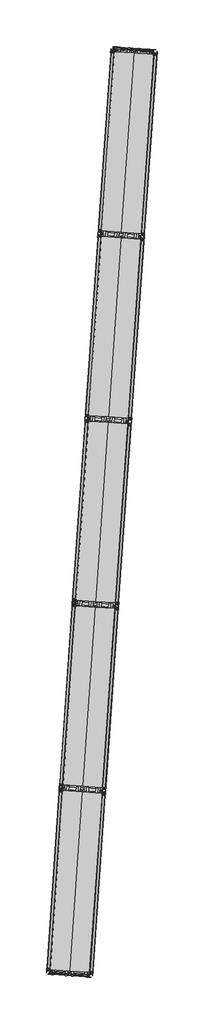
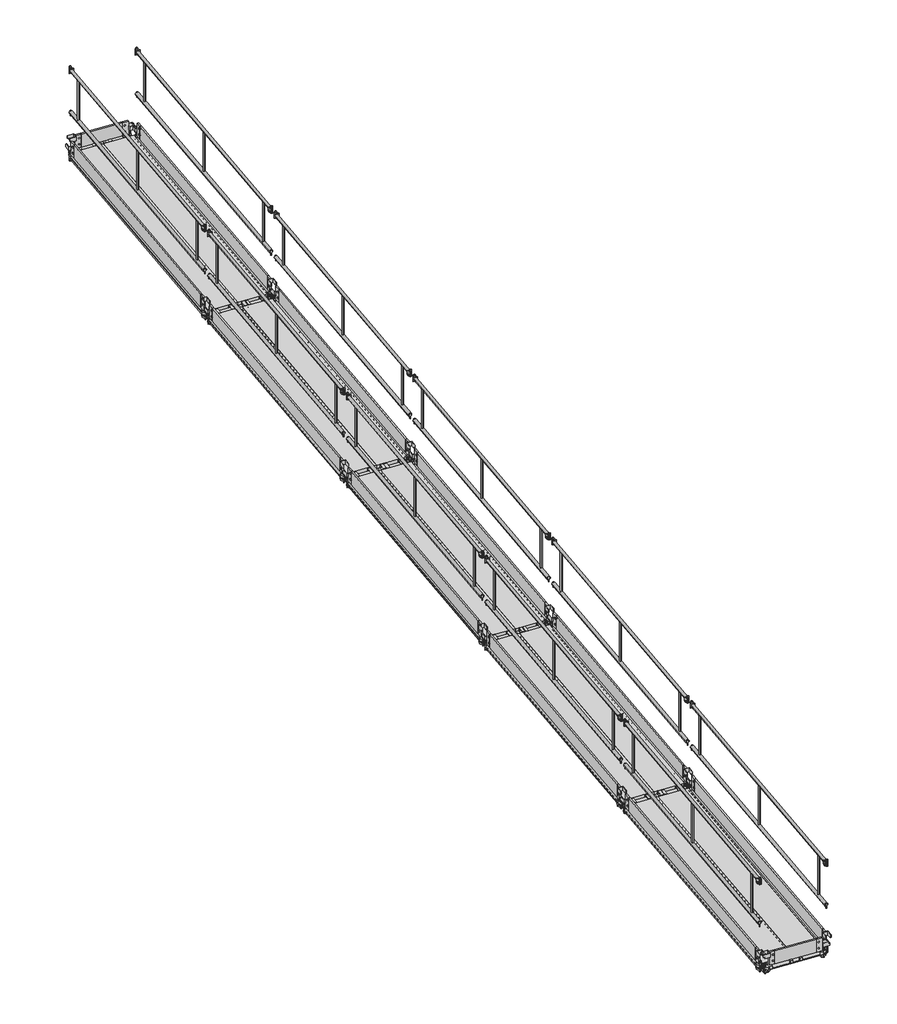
# One storey, incomplete: 54 proxies.
"""IFC4 building model written with IfcOpenShell, lengths in millimetres."""

from ifc_helpers import new_model, si_unit, origin, place, context, project, spatial, transform, mapped, element, save
from components import generic_models_b6224320, generic_models_6026e95e, generic_models_c9bf4d4e, generic_models_8fe25d63, proxy_03_lisse_70_0da8a22d, proxy_04_lisse_3_m_913477d2

model = new_model("IFC4")

# Units and contexts
model_context = context("Model", 3, world=origin())
ifc_project = project(units=[si_unit("LENGTHUNIT", "METRE", prefix="MILLI")], contexts=[model_context])

# Site, building, storey
site = spatial("IfcSite", under=ifc_project)
building = spatial("IfcBuilding", under=site)
storey = spatial("IfcBuildingStorey", under=building, Name="01-Plateau 1", Elevation=400.0)

# Proxies
placement = place(None, origin())
generic_models_shape = generic_models_b6224320(model_context)
element("IfcBuildingElementProxy", 1, Name="05-Plateau 3.00 m : JPA Plateau Galva", ObjectType="05-Plateau 3.00 m : JPA Plateau Galva", at=placement, inside=storey, context=model_context, shape_type="MappedRepresentation", body=[
    mapped(generic_models_shape, transform((17696.6144519, 11330.0091436, 400.0), x_axis=(0.06975647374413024, 0.997564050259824, 0.0), y_axis=(-0.997564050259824, 0.06975647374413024, 0.0), z_axis=(0.0, 0.0, 1.0))),
])
element("IfcBuildingElementProxy", 2, Name="05-Plateau 3.00 m : JPA Plateau Galva", ObjectType="05-Plateau 3.00 m : JPA Plateau Galva", at=placement, inside=storey, context=model_context, shape_type="MappedRepresentation", body=[
    mapped(generic_models_shape, transform((18015.8349479, 11307.687072, 400.0), x_axis=(0.06975647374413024, 0.997564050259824, 0.0), y_axis=(-0.997564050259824, 0.06975647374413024, 0.0), z_axis=(0.0, 0.0, 1.0))),
])
element("IfcBuildingElementProxy", 3, Name="05-Plateau 3.00 m : JPA Plateau Galva", ObjectType="05-Plateau 3.00 m : JPA Plateau Galva", at=placement, inside=storey, context=model_context, shape_type="MappedRepresentation", body=[
    mapped(generic_models_shape, transform((17906.1182541, 14326.0530997, 400.0), x_axis=(0.06975647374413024, 0.997564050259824, 0.0), y_axis=(-0.997564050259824, 0.06975647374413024, 0.0), z_axis=(0.0, 0.0, 1.0))),
])
element("IfcBuildingElementProxy", 4, Name="05-Plateau 3.00 m : JPA Plateau Galva", ObjectType="05-Plateau 3.00 m : JPA Plateau Galva", at=placement, inside=storey, context=model_context, shape_type="MappedRepresentation", body=[
    mapped(generic_models_shape, transform((18225.3387502, 14303.7310281, 400.0), x_axis=(0.06975647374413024, 0.997564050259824, 0.0), y_axis=(-0.997564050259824, 0.06975647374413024, 0.0), z_axis=(0.0, 0.0, 1.0))),
])
element("IfcBuildingElementProxy", 5, Name="05-Plateau 3.00 m : JPA Plateau Galva", ObjectType="05-Plateau 3.00 m : JPA Plateau Galva", at=placement, inside=storey, context=model_context, shape_type="MappedRepresentation", body=[
    mapped(generic_models_shape, transform((18115.6220564, 17322.0970558, 400.0), x_axis=(0.06975647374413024, 0.997564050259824, 0.0), y_axis=(-0.997564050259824, 0.06975647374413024, 0.0), z_axis=(0.0, 0.0, 1.0))),
])
element("IfcBuildingElementProxy", 6, Name="05-Plateau 3.00 m : JPA Plateau Galva", ObjectType="05-Plateau 3.00 m : JPA Plateau Galva", at=placement, inside=storey, context=model_context, shape_type="MappedRepresentation", body=[
    mapped(generic_models_shape, transform((18434.8425525, 17299.7749842, 400.0), x_axis=(0.06975647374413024, 0.997564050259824, 0.0), y_axis=(-0.997564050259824, 0.06975647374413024, 0.0), z_axis=(0.0, 0.0, 1.0))),
])
element("IfcBuildingElementProxy", 7, Name="05-Plateau 3.00 m : JPA Plateau Galva", ObjectType="05-Plateau 3.00 m : JPA Plateau Galva", at=placement, inside=storey, context=model_context, shape_type="MappedRepresentation", body=[
    mapped(generic_models_shape, transform((17487.1106496, 8333.9651875, 400.0), x_axis=(0.06975647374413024, 0.997564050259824, 0.0), y_axis=(-0.997564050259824, 0.06975647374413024, 0.0), z_axis=(0.0, 0.0, 1.0))),
])
element("IfcBuildingElementProxy", 8, Name="05-Plateau 3.00 m : JPA Plateau Galva", ObjectType="05-Plateau 3.00 m : JPA Plateau Galva", at=placement, inside=storey, context=model_context, shape_type="MappedRepresentation", body=[
    mapped(generic_models_shape, transform((17806.3311456, 8311.6431159, 400.0), x_axis=(0.06975647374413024, 0.997564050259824, 0.0), y_axis=(-0.997564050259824, 0.06975647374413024, 0.0), z_axis=(0.0, 0.0, 1.0))),
])
element("IfcBuildingElementProxy", 9, Name="05-Plateau 3.00 m : JPA Plateau Galva", ObjectType="05-Plateau 3.00 m : JPA Plateau Galva", at=placement, inside=storey, context=model_context, shape_type="MappedRepresentation", body=[
    mapped(generic_models_shape, transform((17277.6068473, 5337.9212313, 400.0), x_axis=(0.06975647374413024, 0.997564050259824, 0.0), y_axis=(-0.997564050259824, 0.06975647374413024, 0.0), z_axis=(0.0, 0.0, 1.0))),
])
element("IfcBuildingElementProxy", 10, Name="05-Plateau 3.00 m : JPA Plateau Galva", ObjectType="05-Plateau 3.00 m : JPA Plateau Galva", at=placement, inside=storey, context=model_context, shape_type="MappedRepresentation", body=[
    mapped(generic_models_shape, transform((17596.8273433, 5315.5991597, 400.0), x_axis=(0.06975647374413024, 0.997564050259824, 0.0), y_axis=(-0.997564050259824, 0.06975647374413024, 0.0), z_axis=(0.0, 0.0, 1.0))),
])
generic_models_2_shape = generic_models_6026e95e(model_context)
element("IfcBuildingElementProxy", 11, Name="11-Plinthe 0.70 : JPA Plinthe 0.70", ObjectType="11-Plinthe 0.70 : JPA Plinthe 0.70", at=placement, inside=storey, context=model_context, shape_type="MappedRepresentation", body=[
    mapped(generic_models_2_shape, transform((17293.9283677, 5332.6495195, 400.0), x_axis=(0.9970739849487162, -0.07644258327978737, 0.0), y_axis=(0.07644258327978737, 0.9970739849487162, 0.0), z_axis=(0.0, 0.0, 1.0))),
])
element("IfcBuildingElementProxy", 12, Name="11-Plinthe 0.70 : JPA Plinthe 0.70", ObjectType="11-Plinthe 0.70 : JPA Plinthe 0.70", at=placement, inside=storey, context=model_context, shape_type="MappedRepresentation", body=[
    mapped(generic_models_2_shape, transform((18342.1895888, 20323.4833915, 400.0), x_axis=(0.9970739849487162, -0.07644258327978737, 0.0), y_axis=(0.07644258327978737, 0.9970739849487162, 0.0), z_axis=(0.0, 0.0, 1.0))),
])
generic_models_3_shape = generic_models_c9bf4d4e(model_context)
element("IfcBuildingElementProxy", 13, Name="12-Plinthe 3 m : JPA Plinthe 3 m", ObjectType="12-Plinthe 3 m : JPA Plinthe 3 m", at=placement, inside=storey, context=model_context, shape_type="MappedRepresentation", body=[
    mapped(generic_models_3_shape, transform((17696.788843, 11332.5030537, 400.0), x_axis=(0.06975647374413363, 0.9975640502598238, 0.0), y_axis=(-0.9975640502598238, 0.06975647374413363, 0.0), z_axis=(0.0, 0.0, 1.0))),
])
element("IfcBuildingElementProxy", 14, Name="12-Plinthe 3 m : JPA Plinthe 3 m", ObjectType="12-Plinthe 3 m : JPA Plinthe 3 m", at=placement, inside=storey, context=model_context, shape_type="MappedRepresentation", body=[
    mapped(generic_models_3_shape, transform((18395.0836782, 11283.6735221, 400.0), x_axis=(0.06975647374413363, 0.9975640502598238, 0.0), y_axis=(-0.9975640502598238, 0.06975647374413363, 0.0), z_axis=(0.0, 0.0, 1.0))),
])
element("IfcBuildingElementProxy", 15, Name="12-Plinthe 3 m : JPA Plinthe 3 m", ObjectType="12-Plinthe 3 m : JPA Plinthe 3 m", at=placement, inside=storey, context=model_context, shape_type="MappedRepresentation", body=[
    mapped(generic_models_3_shape, transform((17906.2926453, 14328.5470098, 400.0), x_axis=(0.06975647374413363, 0.9975640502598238, 0.0), y_axis=(-0.9975640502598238, 0.06975647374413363, 0.0), z_axis=(0.0, 0.0, 1.0))),
])
element("IfcBuildingElementProxy", 16, Name="12-Plinthe 3 m : JPA Plinthe 3 m", ObjectType="12-Plinthe 3 m : JPA Plinthe 3 m", at=placement, inside=storey, context=model_context, shape_type="MappedRepresentation", body=[
    mapped(generic_models_3_shape, transform((18604.5874805, 14279.7174782, 400.0), x_axis=(0.06975647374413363, 0.9975640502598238, 0.0), y_axis=(-0.9975640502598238, 0.06975647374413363, 0.0), z_axis=(0.0, 0.0, 1.0))),
])
element("IfcBuildingElementProxy", 17, Name="12-Plinthe 3 m : JPA Plinthe 3 m", ObjectType="12-Plinthe 3 m : JPA Plinthe 3 m", at=placement, inside=storey, context=model_context, shape_type="MappedRepresentation", body=[
    mapped(generic_models_3_shape, transform((18115.7964476, 17324.590966, 400.0), x_axis=(0.06975647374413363, 0.9975640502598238, 0.0), y_axis=(-0.9975640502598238, 0.06975647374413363, 0.0), z_axis=(0.0, 0.0, 1.0))),
])
element("IfcBuildingElementProxy", 18, Name="12-Plinthe 3 m : JPA Plinthe 3 m", ObjectType="12-Plinthe 3 m : JPA Plinthe 3 m", at=placement, inside=storey, context=model_context, shape_type="MappedRepresentation", body=[
    mapped(generic_models_3_shape, transform((18814.0912828, 17275.7614343, 400.0), x_axis=(0.06975647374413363, 0.9975640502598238, 0.0), y_axis=(-0.9975640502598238, 0.06975647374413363, 0.0), z_axis=(0.0, 0.0, 1.0))),
])
element("IfcBuildingElementProxy", 19, Name="12-Plinthe 3 m : JPA Plinthe 3 m", ObjectType="12-Plinthe 3 m : JPA Plinthe 3 m", at=placement, inside=storey, context=model_context, shape_type="MappedRepresentation", body=[
    mapped(generic_models_3_shape, transform((17487.2850407, 8336.4590976, 400.0), x_axis=(0.06975647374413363, 0.9975640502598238, 0.0), y_axis=(-0.9975640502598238, 0.06975647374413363, 0.0), z_axis=(0.0, 0.0, 1.0))),
])
element("IfcBuildingElementProxy", 20, Name="12-Plinthe 3 m : JPA Plinthe 3 m", ObjectType="12-Plinthe 3 m : JPA Plinthe 3 m", at=placement, inside=storey, context=model_context, shape_type="MappedRepresentation", body=[
    mapped(generic_models_3_shape, transform((18185.5798759, 8287.629566, 400.0), x_axis=(0.06975647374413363, 0.9975640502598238, 0.0), y_axis=(-0.9975640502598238, 0.06975647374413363, 0.0), z_axis=(0.0, 0.0, 1.0))),
])
element("IfcBuildingElementProxy", 21, Name="12-Plinthe 3 m : JPA Plinthe 3 m", ObjectType="12-Plinthe 3 m : JPA Plinthe 3 m", at=placement, inside=storey, context=model_context, shape_type="MappedRepresentation", body=[
    mapped(generic_models_3_shape, transform((17277.7812384, 5340.4151415, 400.0), x_axis=(0.06975647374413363, 0.9975640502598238, 0.0), y_axis=(-0.9975640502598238, 0.06975647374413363, 0.0), z_axis=(0.0, 0.0, 1.0))),
])
element("IfcBuildingElementProxy", 22, Name="12-Plinthe 3 m : JPA Plinthe 3 m", ObjectType="12-Plinthe 3 m : JPA Plinthe 3 m", at=placement, inside=storey, context=model_context, shape_type="MappedRepresentation", body=[
    mapped(generic_models_3_shape, transform((17976.0760736, 5291.5856098, 400.0), x_axis=(0.06975647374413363, 0.9975640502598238, 0.0), y_axis=(-0.9975640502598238, 0.06975647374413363, 0.0), z_axis=(0.0, 0.0, 1.0))),
])
generic_models_4_shape = generic_models_8fe25d63(model_context)
element("IfcBuildingElementProxy", 23, Name="14-Garde corps 300 : JPA Garde corps 300", ObjectType="14-Garde corps 300 : JPA Garde corps 300", at=placement, inside=storey, context=model_context, shape_type="MappedRepresentation", body=[
    mapped(generic_models_4_shape, transform((17696.7673576, 11331.7493383, 400.0), x_axis=(0.06975647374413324, 0.9975640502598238, 0.0), y_axis=(-0.9975640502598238, 0.06975647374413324, 0.0), z_axis=(0.0, 0.0, 1.0))),
])
element("IfcBuildingElementProxy", 24, Name="14-Garde corps 300 : JPA Garde corps 300", ObjectType="14-Garde corps 300 : JPA Garde corps 300", at=placement, inside=storey, context=model_context, shape_type="MappedRepresentation", body=[
    mapped(generic_models_4_shape, transform((17906.2711598, 14327.7932944, 400.0), x_axis=(0.06975647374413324, 0.9975640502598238, 0.0), y_axis=(-0.9975640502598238, 0.06975647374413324, 0.0), z_axis=(0.0, 0.0, 1.0))),
])
element("IfcBuildingElementProxy", 25, Name="14-Garde corps 300 : JPA Garde corps 300", ObjectType="14-Garde corps 300 : JPA Garde corps 300", at=placement, inside=storey, context=model_context, shape_type="MappedRepresentation", body=[
    mapped(generic_models_4_shape, transform((18115.7749621, 17323.8372506, 400.0), x_axis=(0.06975647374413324, 0.9975640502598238, 0.0), y_axis=(-0.9975640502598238, 0.06975647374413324, 0.0), z_axis=(0.0, 0.0, 1.0))),
])
element("IfcBuildingElementProxy", 26, Name="14-Garde corps 300 : JPA Garde corps 300", ObjectType="14-Garde corps 300 : JPA Garde corps 300", at=placement, inside=storey, context=model_context, shape_type="MappedRepresentation", body=[
    mapped(generic_models_4_shape, transform((17487.2635553, 8335.7053822, 400.0), x_axis=(0.06975647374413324, 0.9975640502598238, 0.0), y_axis=(-0.9975640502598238, 0.06975647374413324, 0.0), z_axis=(0.0, 0.0, 1.0))),
])
element("IfcBuildingElementProxy", 27, Name="14-Garde corps 300 : JPA Garde corps 300", ObjectType="14-Garde corps 300 : JPA Garde corps 300", at=placement, inside=storey, context=model_context, shape_type="MappedRepresentation", body=[
    mapped(generic_models_4_shape, transform((18814.2002275, 17273.8372506, 400.0), x_axis=(0.06975647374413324, 0.9975640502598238, 0.0), y_axis=(-0.9975640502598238, 0.06975647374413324, 0.0), z_axis=(0.0, 0.0, 1.0))),
])
element("IfcBuildingElementProxy", 28, Name="14-Garde corps 300 : JPA Garde corps 300", ObjectType="14-Garde corps 300 : JPA Garde corps 300", at=placement, inside=storey, context=model_context, shape_type="MappedRepresentation", body=[
    mapped(generic_models_4_shape, transform((18604.2002275, 14273.8372506, 400.0), x_axis=(0.06975647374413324, 0.9975640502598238, 0.0), y_axis=(-0.9975640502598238, 0.06975647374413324, 0.0), z_axis=(0.0, 0.0, 1.0))),
])
element("IfcBuildingElementProxy", 29, Name="14-Garde corps 300 : JPA Garde corps 300", ObjectType="14-Garde corps 300 : JPA Garde corps 300", at=placement, inside=storey, context=model_context, shape_type="MappedRepresentation", body=[
    mapped(generic_models_4_shape, transform((18394.5820239, 11276.1572795, 400.0), x_axis=(0.06975647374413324, 0.9975640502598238, 0.0), y_axis=(-0.9975640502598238, 0.06975647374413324, 0.0), z_axis=(0.0, 0.0, 1.0))),
])
element("IfcBuildingElementProxy", 30, Name="14-Garde corps 300 : JPA Garde corps 300", ObjectType="14-Garde corps 300 : JPA Garde corps 300", at=placement, inside=storey, context=model_context, shape_type="MappedRepresentation", body=[
    mapped(generic_models_4_shape, transform((18184.9638203, 8278.4773085, 400.0), x_axis=(0.06975647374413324, 0.9975640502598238, 0.0), y_axis=(-0.9975640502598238, 0.06975647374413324, 0.0), z_axis=(0.0, 0.0, 1.0))),
])
element("IfcBuildingElementProxy", 31, Name="14-Garde corps 300 : JPA Garde corps 300", ObjectType="14-Garde corps 300 : JPA Garde corps 300", at=placement, inside=storey, context=model_context, shape_type="MappedRepresentation", body=[
    mapped(generic_models_4_shape, transform((17277.759753, 5339.6614261, 400.0), x_axis=(0.06975647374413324, 0.9975640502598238, 0.0), y_axis=(-0.9975640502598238, 0.06975647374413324, 0.0), z_axis=(0.0, 0.0, 1.0))),
])
element("IfcBuildingElementProxy", 32, Name="14-Garde corps 300 : JPA Garde corps 300", ObjectType="14-Garde corps 300 : JPA Garde corps 300", at=placement, inside=storey, context=model_context, shape_type="MappedRepresentation", body=[
    mapped(generic_models_4_shape, transform((17975.460018, 5282.4333524, 400.0), x_axis=(0.06975647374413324, 0.9975640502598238, 0.0), y_axis=(-0.9975640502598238, 0.06975647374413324, 0.0), z_axis=(0.0, 0.0, 1.0))),
])
proxy_03_lisse_70_shape = proxy_03_lisse_70_0da8a22d(model_context)
element("IfcBuildingElementProxy", 33, Name="03-Lisse 70 : JPA Lisse Galva", ObjectType="03-Lisse 70 : JPA Lisse Galva", at=placement, inside=storey, context=model_context, shape_type="MappedRepresentation", body=[
    mapped(proxy_03_lisse_70_shape, transform((17687.6637048, 11325.7592688, 400.0), x_axis=(0.9975640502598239, -0.06975647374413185, 0.0), y_axis=(0.06975647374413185, 0.9975640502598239, 0.0), z_axis=(0.0, 0.0, 1.0))),
])
element("IfcBuildingElementProxy", 34, Name="03-Lisse 70 : JPA Lisse Galva", ObjectType="03-Lisse 70 : JPA Lisse Galva", at=placement, inside=storey, context=model_context, shape_type="MappedRepresentation", body=[
    mapped(proxy_03_lisse_70_shape, transform((17897.1675071, 14321.8032249, 400.0), x_axis=(0.9975640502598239, -0.06975647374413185, 0.0), y_axis=(0.06975647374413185, 0.9975640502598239, 0.0), z_axis=(0.0, 0.0, 1.0))),
])
element("IfcBuildingElementProxy", 35, Name="03-Lisse 70 : JPA Lisse Galva", ObjectType="03-Lisse 70 : JPA Lisse Galva", at=placement, inside=storey, context=model_context, shape_type="MappedRepresentation", body=[
    mapped(proxy_03_lisse_70_shape, transform((18106.6713094, 17317.847181, 400.0), x_axis=(0.9975640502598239, -0.06975647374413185, 0.0), y_axis=(0.06975647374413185, 0.9975640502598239, 0.0), z_axis=(0.0, 0.0, 1.0))),
])
element("IfcBuildingElementProxy", 36, Name="03-Lisse 70 : JPA Lisse Galva", ObjectType="03-Lisse 70 : JPA Lisse Galva", at=placement, inside=storey, context=model_context, shape_type="MappedRepresentation", body=[
    mapped(proxy_03_lisse_70_shape, transform((18311.1751117, 20323.8911372, 400.0), x_axis=(0.9975640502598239, -0.06975647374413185, 0.0), y_axis=(0.06975647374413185, 0.9975640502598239, 0.0), z_axis=(0.0, 0.0, 1.0))),
])
element("IfcBuildingElementProxy", 37, Name="03-Lisse 70 : JPA Lisse Galva", ObjectType="03-Lisse 70 : JPA Lisse Galva", at=placement, inside=storey, context=model_context, shape_type="MappedRepresentation", body=[
    mapped(proxy_03_lisse_70_shape, transform((17478.1599025, 8329.7153127, 400.0), x_axis=(0.9975640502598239, -0.06975647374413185, 0.0), y_axis=(0.06975647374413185, 0.9975640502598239, 0.0), z_axis=(0.0, 0.0, 1.0))),
])
element("IfcBuildingElementProxy", 38, Name="03-Lisse 70 : JPA Lisse Galva", ObjectType="03-Lisse 70 : JPA Lisse Galva", at=placement, inside=storey, context=model_context, shape_type="MappedRepresentation", body=[
    mapped(proxy_03_lisse_70_shape, transform((17478.1599025, 8329.7153127, 400.0), x_axis=(0.9975640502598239, -0.06975647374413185, 0.0), y_axis=(0.06975647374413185, 0.9975640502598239, 0.0), z_axis=(0.0, 0.0, 1.0))),
])
element("IfcBuildingElementProxy", 39, Name="03-Lisse 70 : JPA Lisse Galva", ObjectType="03-Lisse 70 : JPA Lisse Galva", at=placement, inside=storey, context=model_context, shape_type="MappedRepresentation", body=[
    mapped(proxy_03_lisse_70_shape, transform((17268.6561002, 5333.6713565, 400.0), x_axis=(0.9975640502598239, -0.06975647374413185, 0.0), y_axis=(0.06975647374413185, 0.9975640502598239, 0.0), z_axis=(0.0, 0.0, 1.0))),
])
proxy_04_lisse_3_m_shape = proxy_04_lisse_3_m_913477d2(model_context)
element("IfcBuildingElementProxy", 40, Name="04-Lisse 3 m : JPA Lisse Galva", ObjectType="04-Lisse 3 m : JPA Lisse Galva", at=placement, inside=storey, context=model_context, shape_type="MappedRepresentation", body=[
    mapped(proxy_04_lisse_3_m_shape, transform((18185.5798759, 8287.629566, 400.0), x_axis=(0.06975647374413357, 0.9975640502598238, 0.0), y_axis=(-0.9975640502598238, 0.06975647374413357, 0.0), z_axis=(0.0, 0.0, 1.0))),
])
element("IfcBuildingElementProxy", 41, Name="04-Lisse 3 m : JPA Lisse Galva", ObjectType="04-Lisse 3 m : JPA Lisse Galva", at=placement, inside=storey, context=model_context, shape_type="MappedRepresentation", body=[
    mapped(proxy_04_lisse_3_m_shape, transform((18394.2117223, 11271.2039715, 400.0), x_axis=(0.06975647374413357, 0.9975640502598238, 0.0), y_axis=(-0.9975640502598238, 0.06975647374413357, 0.0), z_axis=(0.0, 0.0, 1.0))),
])
element("IfcBuildingElementProxy", 42, Name="04-Lisse 3 m : JPA Lisse Galva", ObjectType="04-Lisse 3 m : JPA Lisse Galva", at=placement, inside=storey, context=model_context, shape_type="MappedRepresentation", body=[
    mapped(proxy_04_lisse_3_m_shape, transform((18604.1764114, 14273.838916, 400.0), x_axis=(0.06975647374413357, 0.9975640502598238, 0.0), y_axis=(-0.9975640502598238, 0.06975647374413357, 0.0), z_axis=(0.0, 0.0, 1.0))),
])
element("IfcBuildingElementProxy", 43, Name="04-Lisse 3 m : JPA Lisse Galva", ObjectType="04-Lisse 3 m : JPA Lisse Galva", at=placement, inside=storey, context=model_context, shape_type="MappedRepresentation", body=[
    mapped(proxy_04_lisse_3_m_shape, transform((18813.5502996, 17268.0250134, 400.0), x_axis=(0.06975647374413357, 0.9975640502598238, 0.0), y_axis=(-0.9975640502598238, 0.06975647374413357, 0.0), z_axis=(0.0, 0.0, 1.0))),
])
element("IfcBuildingElementProxy", 44, Name="04-Lisse 3 m : JPA Lisse Galva", ObjectType="04-Lisse 3 m : JPA Lisse Galva", at=placement, inside=storey, context=model_context, shape_type="MappedRepresentation", body=[
    mapped(proxy_04_lisse_3_m_shape, transform((17976.0760736, 5291.5856098, 400.0), x_axis=(0.06975647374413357, 0.9975640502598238, 0.0), y_axis=(-0.9975640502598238, 0.06975647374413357, 0.0), z_axis=(0.0, 0.0, 1.0))),
])
element("IfcBuildingElementProxy", 45, Name="04-Lisse 3 m : JPA Lisse Galva", ObjectType="04-Lisse 3 m : JPA Lisse Galva", at=placement, inside=storey, context=model_context, shape_type="MappedRepresentation", body=[
    mapped(proxy_04_lisse_3_m_shape, transform((17487.2850407, 8336.4590976, 400.0), x_axis=(0.06975647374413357, 0.9975640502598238, 0.0), y_axis=(-0.9975640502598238, 0.06975647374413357, 0.0), z_axis=(0.0, 0.0, 1.0))),
])
element("IfcBuildingElementProxy", 46, Name="04-Lisse 3 m : JPA Lisse Galva", ObjectType="04-Lisse 3 m : JPA Lisse Galva", at=placement, inside=storey, context=model_context, shape_type="MappedRepresentation", body=[
    mapped(proxy_04_lisse_3_m_shape, transform((17695.9168871, 11320.0335031, 400.0), x_axis=(0.06975647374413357, 0.9975640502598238, 0.0), y_axis=(-0.9975640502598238, 0.06975647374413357, 0.0), z_axis=(0.0, 0.0, 1.0))),
])
element("IfcBuildingElementProxy", 47, Name="04-Lisse 3 m : JPA Lisse Galva", ObjectType="04-Lisse 3 m : JPA Lisse Galva", at=placement, inside=storey, context=model_context, shape_type="MappedRepresentation", body=[
    mapped(proxy_04_lisse_3_m_shape, transform((17905.8815762, 14322.6684476, 400.0), x_axis=(0.06975647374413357, 0.9975640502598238, 0.0), y_axis=(-0.9975640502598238, 0.06975647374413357, 0.0), z_axis=(0.0, 0.0, 1.0))),
])
element("IfcBuildingElementProxy", 48, Name="04-Lisse 3 m : JPA Lisse Galva", ObjectType="04-Lisse 3 m : JPA Lisse Galva", at=placement, inside=storey, context=model_context, shape_type="MappedRepresentation", body=[
    mapped(proxy_04_lisse_3_m_shape, transform((18115.2554644, 17316.8545451, 400.0), x_axis=(0.06975647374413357, 0.9975640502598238, 0.0), y_axis=(-0.9975640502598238, 0.06975647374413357, 0.0), z_axis=(0.0, 0.0, 1.0))),
])
element("IfcBuildingElementProxy", 49, Name="04-Lisse 3 m : JPA Lisse Galva", ObjectType="04-Lisse 3 m : JPA Lisse Galva", at=placement, inside=storey, context=model_context, shape_type="MappedRepresentation", body=[
    mapped(proxy_04_lisse_3_m_shape, transform((17277.7812384, 5340.4151415, 400.0), x_axis=(0.06975647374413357, 0.9975640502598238, 0.0), y_axis=(-0.9975640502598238, 0.06975647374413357, 0.0), z_axis=(0.0, 0.0, 1.0))),
])
element("IfcBuildingElementProxy", 50, Name="04-Lisse 3 m : JPA Lisse Galva", ObjectType="04-Lisse 3 m : JPA Lisse Galva", at=placement, inside=storey, context=model_context, shape_type="MappedRepresentation", body=[
    mapped(proxy_04_lisse_3_m_shape, transform((17500.8765554, 8353.1677495, 400.0), x_axis=(0.06975647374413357, 0.9975640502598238, 0.0), y_axis=(-0.9975640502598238, 0.06975647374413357, 0.0), z_axis=(0.0, 0.0, 1.0))),
])
element("IfcBuildingElementProxy", 51, Name="04-Lisse 3 m : JPA Lisse Galva", ObjectType="04-Lisse 3 m : JPA Lisse Galva", at=placement, inside=storey, context=model_context, shape_type="MappedRepresentation", body=[
    mapped(proxy_04_lisse_3_m_shape, transform((17709.5084018, 11336.742155, 400.0), x_axis=(0.06975647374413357, 0.9975640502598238, 0.0), y_axis=(-0.9975640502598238, 0.06975647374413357, 0.0), z_axis=(0.0, 0.0, 1.0))),
])
element("IfcBuildingElementProxy", 52, Name="04-Lisse 3 m : JPA Lisse Galva", ObjectType="04-Lisse 3 m : JPA Lisse Galva", at=placement, inside=storey, context=model_context, shape_type="MappedRepresentation", body=[
    mapped(proxy_04_lisse_3_m_shape, transform((17919.4730909, 14339.3770995, 400.0), x_axis=(0.06975647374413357, 0.9975640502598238, 0.0), y_axis=(-0.9975640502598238, 0.06975647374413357, 0.0), z_axis=(0.0, 0.0, 1.0))),
])
element("IfcBuildingElementProxy", 53, Name="04-Lisse 3 m : JPA Lisse Galva", ObjectType="04-Lisse 3 m : JPA Lisse Galva", at=placement, inside=storey, context=model_context, shape_type="MappedRepresentation", body=[
    mapped(proxy_04_lisse_3_m_shape, transform((18128.846979, 17333.563197, 400.0), x_axis=(0.06975647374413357, 0.9975640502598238, 0.0), y_axis=(-0.9975640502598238, 0.06975647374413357, 0.0), z_axis=(0.0, 0.0, 1.0))),
])
element("IfcBuildingElementProxy", 54, Name="04-Lisse 3 m : JPA Lisse Galva", ObjectType="04-Lisse 3 m : JPA Lisse Galva", at=placement, inside=storey, context=model_context, shape_type="MappedRepresentation", body=[
    mapped(proxy_04_lisse_3_m_shape, transform((17291.3727531, 5357.1237934, 400.0), x_axis=(0.06975647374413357, 0.9975640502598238, 0.0), y_axis=(-0.9975640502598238, 0.06975647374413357, 0.0), z_axis=(0.0, 0.0, 1.0))),
])

save(model, "model.ifc")
